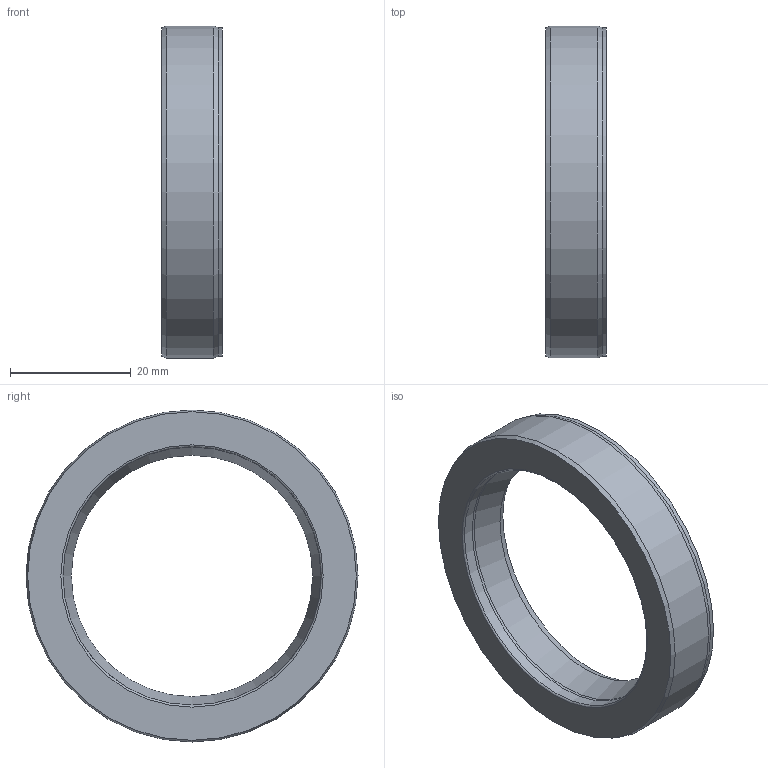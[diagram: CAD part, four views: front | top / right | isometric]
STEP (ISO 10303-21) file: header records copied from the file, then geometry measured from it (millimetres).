
FILE_DESCRIPTION( ( 'STEP AP214' ), '1' );
FILE_NAME( 'p:/temp/worker_28/temp/app_40_0201907181221429720216310e898ce_000000_00_00_000000/format_0/TRA500400-4N011 (0).stp', '2019-07-18T10:21:43', ( '' ), ( '' ), ' ', 'PARTsolutions', ' ' );
FILE_SCHEMA( ( 'AUTOMOTIVE_DESIGN { 1 0 10303 214 1 1 1 1 }' ) );
Length unit declared in the file: millimetre
Products named in the file (4): TRA500400-4N011 (0); _TRA50040010; _TRA5004002; _TRA500400
Assembly tree (3 placements, depth 2):
  TRA500400-4N011 (0)
    _TRA50040010
    _TRA5004002
    _TRA500400
Bounding box: 10 x 55 x 55 mm (x, y, z)
Volume: 6236.7 mm3; surface area: 15766.1 mm2
Topology: 3 solids, 4 shells, 39 faces, 68 edges, 39 vertices
Faces by surface type: torus 12, plane 10, cylinder 9, cone 8
Full cylindrical faces by diameter (mm): 42.865 x1, 44.125 x2, 51.79 x2, 53.809 x2, 54.445 x1, 55 x1
Entity records: 1178 total; most frequent: DIRECTION 162, CARTESIAN_POINT 122, AXIS2_PLACEMENT_3D 81, EDGE_LOOP 76, ORIENTED_EDGE 76, FACE_OUTER_BOUND 58, VERTEX_POINT 41, STYLED_ITEM 39
